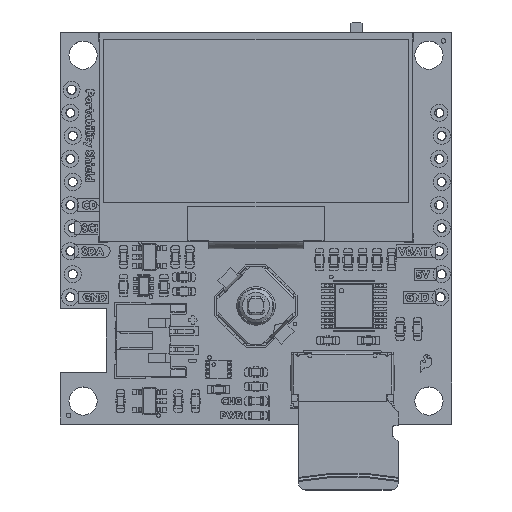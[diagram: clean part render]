
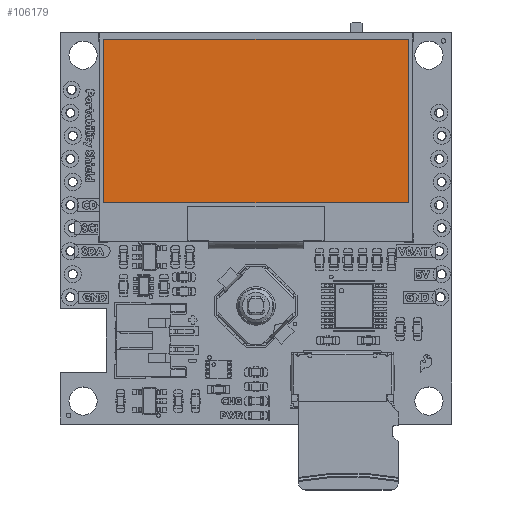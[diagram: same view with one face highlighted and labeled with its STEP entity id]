
A CAD part, top view. The second image highlights one B-rep face of the part: STEP entity #106179.
In plain terms, the highlighted planar face has unit normal (0, 0, 1).
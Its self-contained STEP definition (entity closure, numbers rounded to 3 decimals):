
#12564=FACE_OUTER_BOUND('',#17246,.T.);
#17246=EDGE_LOOP('',(#99115,#99116,#99117,#99118));
#30420=LINE('',#177526,#43605);
#30423=LINE('',#177532,#43608);
#30426=LINE('',#177538,#43611);
#30429=LINE('',#177542,#43614);
#43605=VECTOR('',#142369,10.);
#43608=VECTOR('',#142374,10.);
#43611=VECTOR('',#142379,10.);
#43614=VECTOR('',#142384,10.);
#56880=VERTEX_POINT('',#177523);
#56881=VERTEX_POINT('',#177525);
#56883=VERTEX_POINT('',#177531);
#56885=VERTEX_POINT('',#177537);
#73363=EDGE_CURVE('',#56881,#56880,#30420,.T.);
#73366=EDGE_CURVE('',#56883,#56881,#30423,.T.);
#73369=EDGE_CURVE('',#56885,#56883,#30426,.T.);
#73372=EDGE_CURVE('',#56880,#56885,#30429,.T.);
#99115=ORIENTED_EDGE('',*,*,#73372,.T.);
#99116=ORIENTED_EDGE('',*,*,#73369,.T.);
#99117=ORIENTED_EDGE('',*,*,#73366,.T.);
#99118=ORIENTED_EDGE('',*,*,#73363,.T.);
#102097=PLANE('',#114337);
#106179=ADVANCED_FACE('',(#12564),#102097,.T.);
#114337=AXIS2_PLACEMENT_3D('',#177543,#142385,#142386);
#142369=DIRECTION('',(0.,-1.,0.));
#142374=DIRECTION('',(-1.,0.,0.));
#142379=DIRECTION('',(0.,1.,0.));
#142384=DIRECTION('',(1.,0.,0.));
#142385=DIRECTION('center_axis',(0.,0.,1.));
#142386=DIRECTION('ref_axis',(1.,0.,0.));
#177523=CARTESIAN_POINT('',(4.84,24.38,4.61));
#177525=CARTESIAN_POINT('',(4.84,42.38,4.61));
#177526=CARTESIAN_POINT('',(4.84,24.38,4.61));
#177531=CARTESIAN_POINT('',(38.34,42.38,4.61));
#177532=CARTESIAN_POINT('',(4.84,42.38,4.61));
#177537=CARTESIAN_POINT('',(38.34,24.38,4.61));
#177538=CARTESIAN_POINT('',(38.34,42.38,4.61));
#177542=CARTESIAN_POINT('',(38.34,24.38,4.61));
#177543=CARTESIAN_POINT('Origin',(21.59,31.58,4.61));
